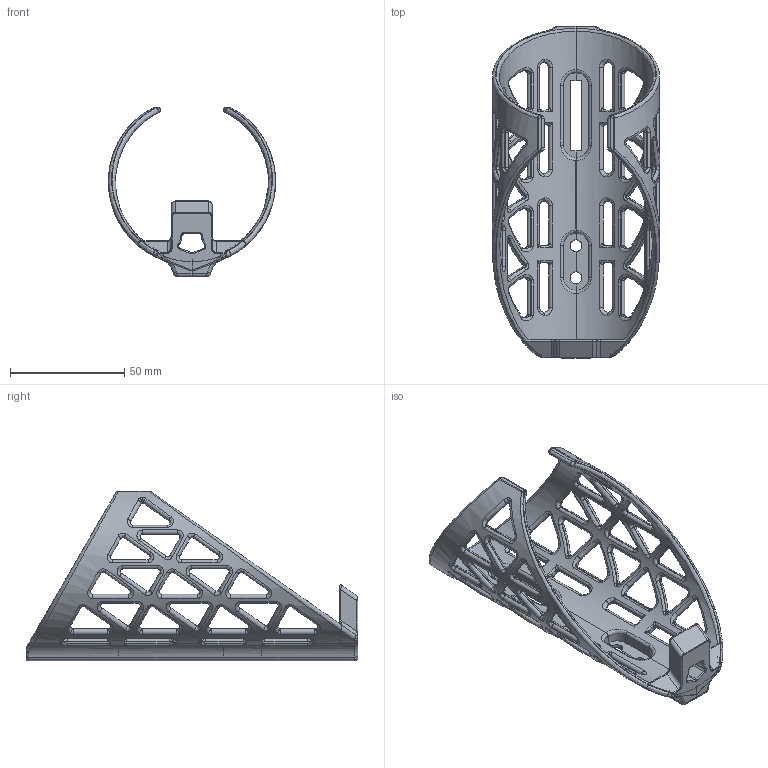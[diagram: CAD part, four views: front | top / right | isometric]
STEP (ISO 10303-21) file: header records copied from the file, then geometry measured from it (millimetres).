
FILE_DESCRIPTION(('HOOPS Exchange Step'),'2;1');
FILE_NAME('C:\Users\Andrew Hopkins\AppData\Local\Packages\Shapr3D.Shapr3D_j403pzjkqtqbj\TempState\export\temp_export','2025-07-27T11:04:49-07:00',('Andrew Hopkins'),('Shapr3D Limited'),'HOOPS Exchange 2025.5','Shapr3D','Authorized');
FILE_SCHEMA( ('AP242_MANAGED_MODEL_BASED_3D_ENGINEERING_MIM_LF {1 0 10303 442 1 1 4}') );
Length unit declared in the file: millimetre
Products named in the file (2): ring_screw.step; root
Assembly tree (1 placements, depth 2):
  root
    ring_screw.step
Bounding box: 73 x 145 x 74 mm (x, y, z)
Volume: 48267.8 mm3; surface area: 34632.4 mm2
Topology: 3 solids, 3 shells, 1145 faces, 2883 edges, 1688 vertices
Faces by surface type: bspline 528, cylinder 341, plane 212, torus 64
Entity records: 74588 total; most frequent: CARTESIAN_POINT 51119, ORIENTED_EDGE 5670, DIRECTION 3715, EDGE_CURVE 2835, VERTEX_POINT 1688, AXIS2_PLACEMENT_3D 1457, EDGE_LOOP 1219, FACE_BOUND 1219
